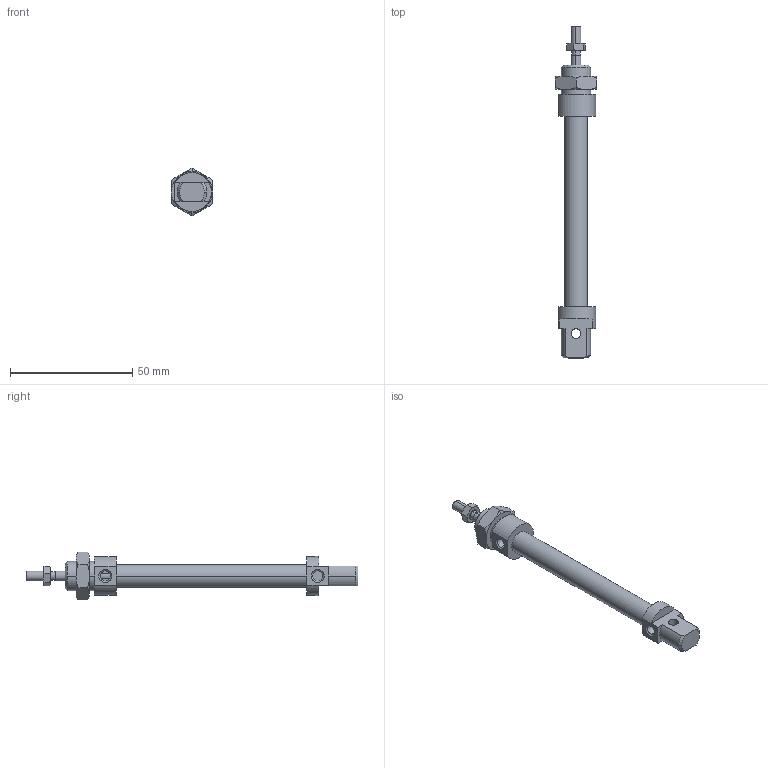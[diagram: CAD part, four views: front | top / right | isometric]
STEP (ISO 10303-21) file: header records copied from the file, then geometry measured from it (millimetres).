
FILE_DESCRIPTION((''),'2;1');
FILE_NAME('I:\DOC-EDP\Lib-3d\1200\CILINDRI\1280\1280_08_0050.stp','2003-04-07T14:43:35',('maffial1'),(''),'Autodesk Inventor (R) 6.0','Autodesk Inventor (R) 6.0','');
FILE_SCHEMA(('AUTOMOTIVE_DESIGN { 1 0 10303 214 1 1 1 1 }'));
Length unit declared in the file: millimetre
Products named in the file (5): 1280_08_0050; S1280_08_50; 1200_08_05; 1200_08_06; C1280_08_50
Assembly tree (4 placements, depth 2):
  1280_08_0050
    S1280_08_50
    1200_08_05
    1200_08_06
    C1280_08_50
Bounding box: 17 x 136 x 19.63 mm (x, y, z)
Volume: 11684.1 mm3; surface area: 7768.4 mm2
Topology: 4 solids, 4 shells, 117 faces, 261 edges, 158 vertices
Faces by surface type: cone 40, plane 34, cylinder 22, bspline 21
Entity records: 3582 total; most frequent: CARTESIAN_POINT 992, DIRECTION 531, ORIENTED_EDGE 522, EDGE_CURVE 261, AXIS2_PLACEMENT_3D 221, VERTEX_POINT 158, EDGE_LOOP 131, FACE_OUTER_BOUND 117
